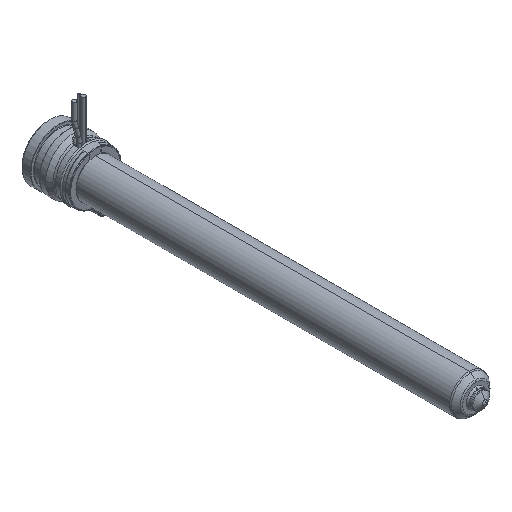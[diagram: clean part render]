
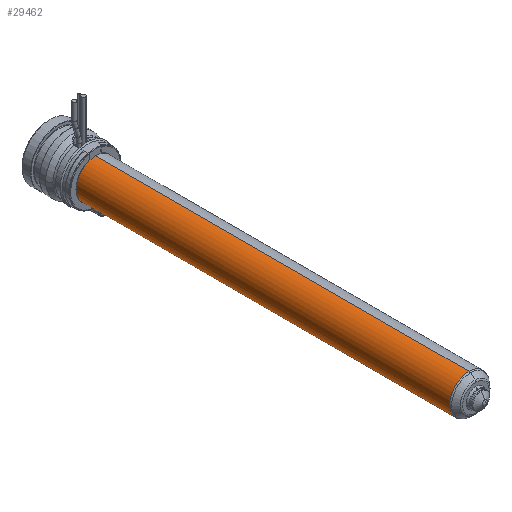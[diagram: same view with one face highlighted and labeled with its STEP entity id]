
A CAD part, isometric view. The second image highlights one B-rep face of the part: STEP entity #29462.
In plain terms, the highlighted cylindrical face has radius 9 mm (diameter 18 mm), a partial arc.
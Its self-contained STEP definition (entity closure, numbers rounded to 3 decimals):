
#28868=CARTESIAN_POINT('',(0.,-195.836,0.));
#28869=DIRECTION('',(0.,-1.,0.));
#28870=DIRECTION('',(0.,0.,1.));
#28871=AXIS2_PLACEMENT_3D('',#28868,#28869,#28870);
#28873=CARTESIAN_POINT('',(0.,-22.,0.));
#28874=DIRECTION('',(0.,1.,0.));
#28875=DIRECTION('',(0.,0.,-1.));
#28876=AXIS2_PLACEMENT_3D('',#28873,#28874,#28875);
#28878=DIRECTION('',(0.,1.,0.));
#28879=VECTOR('',#28878,173.836);
#28880=CARTESIAN_POINT('',(0.,-195.836,9.));
#28881=LINE('',#28880,#28879);
#28887=DIRECTION('',(0.,1.,0.));
#28888=VECTOR('',#28887,173.836);
#28889=CARTESIAN_POINT('',(0.,-195.836,-9.));
#28890=LINE('',#28889,#28888);
#29005=CARTESIAN_POINT('',(0.,-195.836,9.));
#29006=CARTESIAN_POINT('',(0.,-22.,9.));
#29007=VERTEX_POINT('',#29005);
#29008=VERTEX_POINT('',#29006);
#29009=CARTESIAN_POINT('',(0.,-195.836,-9.));
#29010=CARTESIAN_POINT('',(0.,-22.,-9.));
#29011=VERTEX_POINT('',#29009);
#29012=VERTEX_POINT('',#29010);
#29448=CARTESIAN_POINT('',(0.,-8.7,0.));
#29449=DIRECTION('',(0.,-1.,0.));
#29450=DIRECTION('',(0.,0.,1.));
#29451=AXIS2_PLACEMENT_3D('',#29448,#29449,#29450);
#29452=CYLINDRICAL_SURFACE('',#29451,9.);
#29454=ORIENTED_EDGE('',*,*,#29453,.F.);
#29455=ORIENTED_EDGE('',*,*,#29436,.T.);
#29457=ORIENTED_EDGE('',*,*,#29456,.T.);
#29459=ORIENTED_EDGE('',*,*,#29458,.T.);
#29460=EDGE_LOOP('',(#29454,#29455,#29457,#29459));
#29461=FACE_OUTER_BOUND('',#29460,.F.);
#29462=ADVANCED_FACE('',(#29461),#29452,.T.);
#28872=CIRCLE('',#28871,9.);
#28877=CIRCLE('',#28876,9.);
#29436=EDGE_CURVE('',#29007,#29011,#28872,.T.);
#29453=EDGE_CURVE('',#29007,#29008,#28881,.T.);
#29456=EDGE_CURVE('',#29011,#29012,#28890,.T.);
#29458=EDGE_CURVE('',#29012,#29008,#28877,.T.);
